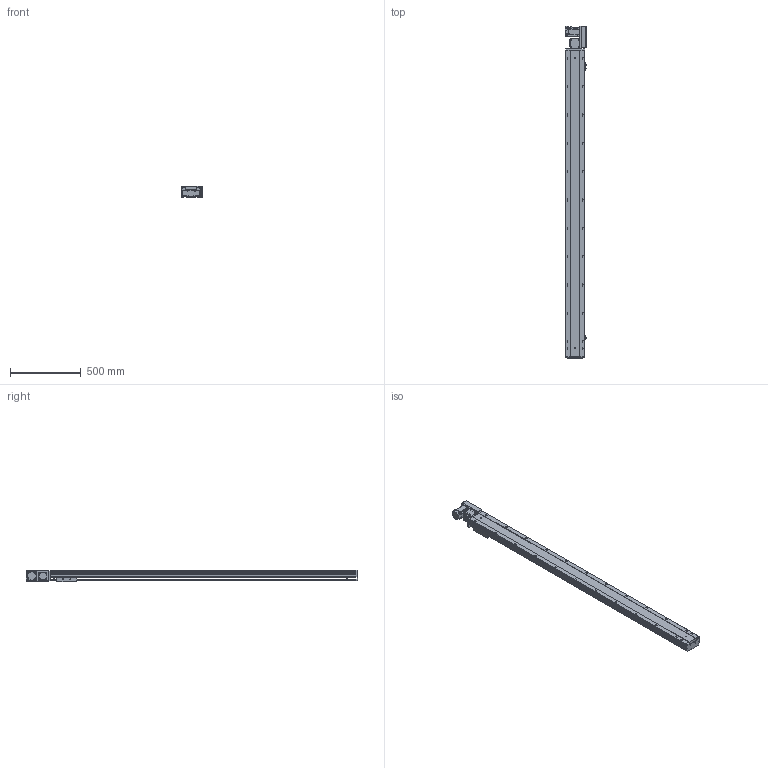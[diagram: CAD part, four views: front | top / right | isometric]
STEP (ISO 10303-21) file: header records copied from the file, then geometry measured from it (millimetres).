
FILE_DESCRIPTION (( 'STEP AP203' ), '1' );
FILE_NAME ('190.STEP', '2022-07-20T12:02:52', ( '' ), ( '' ), 'SwSTEP 2.0', 'SolidWorks 2016', '' );
FILE_SCHEMA (( 'CONFIG_CONTROL_DESIGN' ));
Length unit declared in the file: millimetre
Products named in the file (10): BTB14-L-HZ; BTB14-L-01; 190; BTB14-L-04; BTB14-L-23; BTB14-L-06; BTB14-L-菁釱_XD; BTB14-L-24; BTB14-L-M40; BTB14-L-02
Assembly tree (12 placements, depth 2):
  190
    BTB14-L-菁釱_XD
    BTB14-L-01
    BTB14-L-02
    BTB14-L-04  x3
    BTB14-L-06
    BTB14-L-23  x2
    BTB14-L-24
    BTB14-L-HZ
    BTB14-L-M40
Bounding box: 148.7 x 2343.5 x 78 mm (x, y, z)
Volume: 9903227.3 mm3; surface area: 2054274.1 mm2
Topology: 22 solids, 22 shells, 1678 faces, 4437 edges, 2818 vertices
Faces by surface type: plane 937, cylinder 504, cone 148, bspline 77, torus 12
Entity records: 44690 total; most frequent: CARTESIAN_POINT 10889, DIRECTION 6760, ORIENTED_EDGE 6748, EDGE_CURVE 3374, VECTOR 2266, LINE 2266, AXIS2_PLACEMENT_3D 2247, VERTEX_POINT 2196
